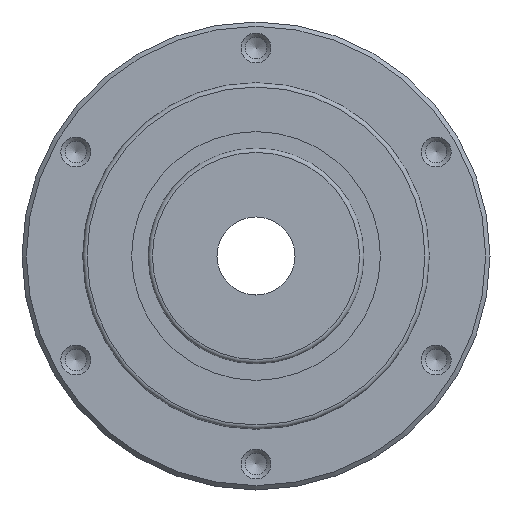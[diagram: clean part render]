
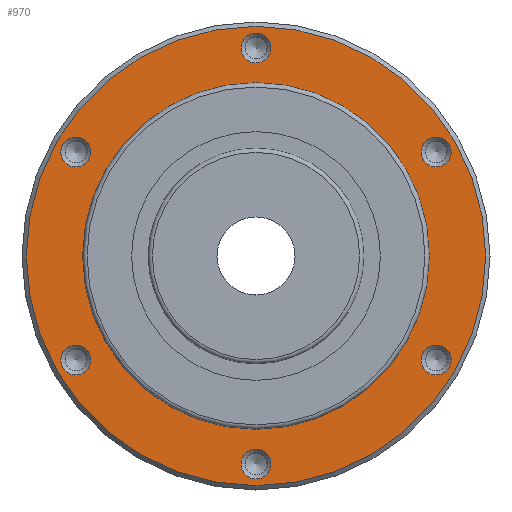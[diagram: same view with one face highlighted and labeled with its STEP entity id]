
A CAD part, left-side view. The second image highlights one B-rep face of the part: STEP entity #970.
In plain terms, the highlighted planar face has unit normal (-1, 0, 0).
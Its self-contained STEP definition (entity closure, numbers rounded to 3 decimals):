
#54=PLANE('',#1050);
#85=ORIENTED_EDGE('',*,*,#190,.T.);
#86=ORIENTED_EDGE('',*,*,#191,.T.);
#87=ORIENTED_EDGE('',*,*,#192,.T.);
#88=ORIENTED_EDGE('',*,*,#193,.T.);
#89=ORIENTED_EDGE('',*,*,#194,.T.);
#90=ORIENTED_EDGE('',*,*,#195,.T.);
#91=ORIENTED_EDGE('',*,*,#196,.T.);
#92=ORIENTED_EDGE('',*,*,#189,.F.);
#189=EDGE_CURVE('',#243,#243,#303,.T.);
#190=EDGE_CURVE('',#244,#244,#304,.T.);
#191=EDGE_CURVE('',#245,#245,#305,.T.);
#192=EDGE_CURVE('',#246,#246,#306,.T.);
#193=EDGE_CURVE('',#247,#247,#307,.T.);
#194=EDGE_CURVE('',#248,#248,#308,.T.);
#195=EDGE_CURVE('',#249,#249,#309,.T.);
#196=EDGE_CURVE('',#250,#250,#310,.T.);
#243=VERTEX_POINT('',#1397);
#244=VERTEX_POINT('',#1400);
#245=VERTEX_POINT('',#1402);
#246=VERTEX_POINT('',#1404);
#247=VERTEX_POINT('',#1406);
#248=VERTEX_POINT('',#1408);
#249=VERTEX_POINT('',#1410);
#250=VERTEX_POINT('',#1412);
#303=CIRCLE('',#1049,40.);
#304=CIRCLE('',#1051,3.459);
#305=CIRCLE('',#1052,3.459);
#306=CIRCLE('',#1053,3.459);
#307=CIRCLE('',#1054,3.459);
#308=CIRCLE('',#1055,3.459);
#309=CIRCLE('',#1056,3.459);
#310=CIRCLE('',#1057,53.);
#361=EDGE_LOOP('',(#85));
#362=EDGE_LOOP('',(#86));
#363=EDGE_LOOP('',(#87));
#364=EDGE_LOOP('',(#88));
#365=EDGE_LOOP('',(#89));
#366=EDGE_LOOP('',(#90));
#367=EDGE_LOOP('',(#91));
#368=EDGE_LOOP('',(#92));
#469=FACE_BOUND('',#361,.T.);
#470=FACE_BOUND('',#362,.T.);
#471=FACE_BOUND('',#363,.T.);
#472=FACE_BOUND('',#364,.T.);
#473=FACE_BOUND('',#365,.T.);
#474=FACE_BOUND('',#366,.T.);
#475=FACE_BOUND('',#367,.T.);
#476=FACE_BOUND('',#368,.T.);
#970=ADVANCED_FACE('',(#469,#470,#471,#472,#473,#474,#475,#476),#54,.T.);
#1049=AXIS2_PLACEMENT_3D('',#1396,#1191,#1192);
#1050=AXIS2_PLACEMENT_3D('',#1398,#1193,#1194);
#1051=AXIS2_PLACEMENT_3D('',#1399,#1195,#1196);
#1052=AXIS2_PLACEMENT_3D('',#1401,#1197,#1198);
#1053=AXIS2_PLACEMENT_3D('',#1403,#1199,#1200);
#1054=AXIS2_PLACEMENT_3D('',#1405,#1201,#1202);
#1055=AXIS2_PLACEMENT_3D('',#1407,#1203,#1204);
#1056=AXIS2_PLACEMENT_3D('',#1409,#1205,#1206);
#1057=AXIS2_PLACEMENT_3D('',#1411,#1207,#1208);
#1191=DIRECTION('',(-1.,0.,0.));
#1192=DIRECTION('',(0.,0.,1.));
#1193=DIRECTION('',(-1.,0.,0.));
#1194=DIRECTION('',(0.,0.,1.));
#1195=DIRECTION('',(1.,0.,0.));
#1196=DIRECTION('',(0.,-0.5,0.866));
#1197=DIRECTION('',(1.,0.,0.));
#1198=DIRECTION('',(0.,0.5,0.866));
#1199=DIRECTION('',(1.,0.,0.));
#1200=DIRECTION('',(0.,1.,0.));
#1201=DIRECTION('',(1.,0.,0.));
#1202=DIRECTION('',(0.,0.5,-0.866));
#1203=DIRECTION('',(1.,0.,0.));
#1204=DIRECTION('',(0.,-0.5,-0.866));
#1205=DIRECTION('',(1.,0.,0.));
#1206=DIRECTION('',(0.,-1.,0.));
#1207=DIRECTION('',(-1.,0.,0.));
#1208=DIRECTION('',(0.,0.,1.));
#1396=CARTESIAN_POINT('',(12.2,0.,0.));
#1397=CARTESIAN_POINT('',(12.2,0.,40.));
#1398=CARTESIAN_POINT('',(12.2,0.,40.));
#1399=CARTESIAN_POINT('',(12.2,41.569,24.));
#1400=CARTESIAN_POINT('',(12.2,39.84,26.995));
#1401=CARTESIAN_POINT('',(12.2,41.569,-24.));
#1402=CARTESIAN_POINT('',(12.2,43.298,-21.005));
#1403=CARTESIAN_POINT('',(12.2,0.,-48.));
#1404=CARTESIAN_POINT('',(12.2,3.459,-48.));
#1405=CARTESIAN_POINT('',(12.2,-41.569,-24.));
#1406=CARTESIAN_POINT('',(12.2,-39.84,-26.995));
#1407=CARTESIAN_POINT('',(12.2,-41.569,24.));
#1408=CARTESIAN_POINT('',(12.2,-43.298,21.005));
#1409=CARTESIAN_POINT('',(12.2,0.,48.));
#1410=CARTESIAN_POINT('',(12.2,-3.459,48.));
#1411=CARTESIAN_POINT('',(12.2,0.,0.));
#1412=CARTESIAN_POINT('',(12.2,0.,53.));
